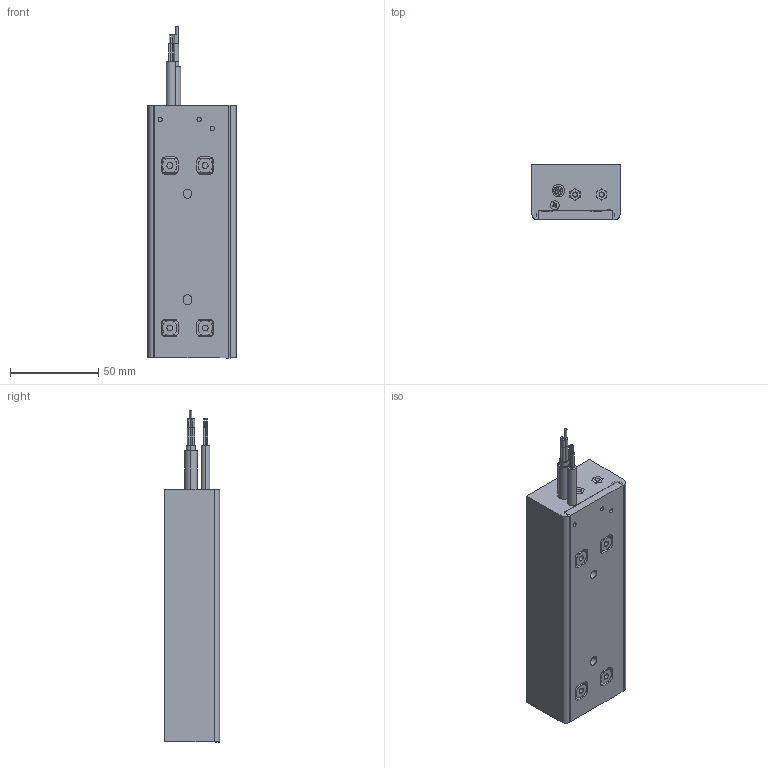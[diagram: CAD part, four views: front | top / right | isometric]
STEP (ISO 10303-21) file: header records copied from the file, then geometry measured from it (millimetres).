
FILE_DESCRIPTION (( 'STEP AP203' ), '1' );
FILE_NAME ('IC6-50 assembly 3D.STEP', '2020-10-22T05:53:37', ( '' ), ( '' ), 'SwSTEP 2.0', 'SolidWorks 2018', '' );
FILE_SCHEMA (( 'CONFIG_CONTROL_DESIGN' ));
Length unit declared in the file: millimetre
Products named in the file (7): power cable IC50 3D; IC6-50 assembly 3D; IC6-50 resin test; IC6-50 housing; IC-50 dovetail rounded; M3 nut hall module for 3D CU; sensor cable 3D
Assembly tree (8 placements, depth 2):
  IC6-50 assembly 3D
    IC6-50 housing
    IC-50 dovetail rounded  x2
    IC6-50 resin test
    M3 nut hall module for 3D CU  x2
    power cable IC50 3D
    sensor cable 3D
Bounding box: 50.93 x 31.28 x 188 mm (x, y, z)
Volume: 226170.4 mm3; surface area: 47319.4 mm2
Topology: 9 solids, 9 shells, 446 faces, 1163 edges, 740 vertices
Faces by surface type: plane 210, cylinder 198, torus 26, sphere 12
Entity records: 12013 total; most frequent: CARTESIAN_POINT 2397, DIRECTION 1904, ORIENTED_EDGE 1822, EDGE_CURVE 911, AXIS2_PLACEMENT_3D 685, VERTEX_POINT 592, VECTOR 534, LINE 534
